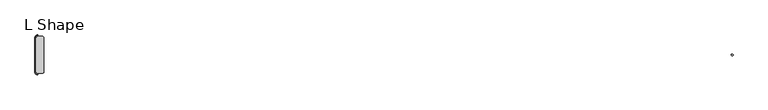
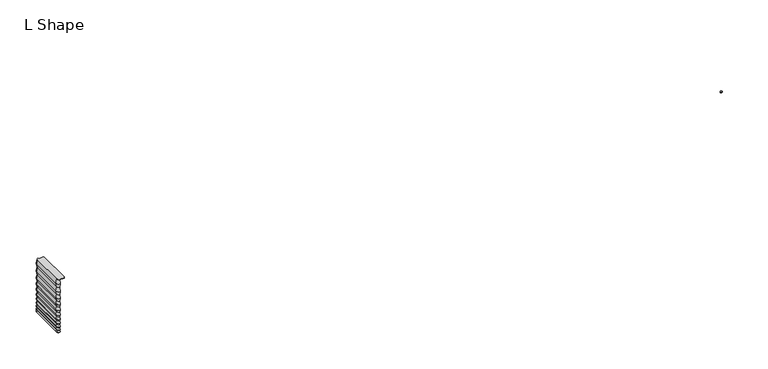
"""IFC4 building model written with IfcOpenShell, lengths in millimetres: light fixture geometry, Lighting-Ceiling-Betacalco-Bellows-L_Shape : L Shape."""

from ifc_helpers import new_model, si_unit, point, frame, frame_2d, origin, place, context, project, spatial, polyline, circle_curve, trimmed, segment, composite_curve, outline, extrude, source, transform, mapped, element, save
from ifc_brep_helpers import plane_surface, revolved_surface, advanced_brep


def l_shape_a64cd410(model_context):
    return source(origin(), model_context, "Body", "SolidModel", [
        advanced_brep(
        [(-609.6, -35.1474913, 2.032), (-609.6, -33.3694913, 0.0), (-609.6, 33.3694913, 0.0), (-609.6, 35.1474913, 2.032), (-609.6, 33.3694913, 4.064), (-609.6, 35.1474913, 6.604), (-609.6, 33.3694913, 9.144), (-609.6, 35.1474913, 12.192), (-609.6, 33.3694913, 15.24), (-609.6, 35.1474913, 18.796), (-609.6, 33.3694913, 22.352), (-609.6, 35.1474913, 26.162), (-609.6, 33.3694913, 29.972), (-609.6, 35.11885, 34.4703509), (-609.6, 33.3966915, 39.0460566), (-609.6, 35.1239968, 44.1288728), (-609.6, 33.3919128, 49.2119386), (-609.6, 35.1278878, 54.802389), (-609.6, 33.3882749, 60.3929656), (-609.6, 35.1308966, 66.491104), (-609.6, 33.3848944, 72.5911894), (-609.6, 35.1351705, 79.7067168), (-609.6, 33.3815995, 86.8195673), (-609.6, 35.1359826, 94.186321), (-609.6, 33.3694913, 101.6), (-609.6, 32.6229178, 101.6), (-609.6, 32.6229178, 100.2332722), (-609.6, -32.6229178, 100.2332722), (-609.6, -32.6229178, 101.6), (-609.6, -33.3694913, 101.6), (-609.6, -35.1359826, 94.186321), (-609.6, -33.3815995, 86.8195673), (-609.6, -35.1351705, 79.7067168), (-609.6, -33.3848944, 72.5911894), (-609.6, -35.1308966, 66.491104), (-609.6, -33.3882749, 60.3929656), (-609.6, -35.1278878, 54.802389), (-609.6, -33.3919128, 49.2119386), (-609.6, -35.1239968, 44.1288728), (-609.6, -33.3966915, 39.0460566), (-609.6, -35.11885, 34.4703509), (-609.6, -33.3694913, 29.972), (-609.6, -35.1474913, 26.162), (-609.6, -33.3694913, 22.352), (-609.6, -35.1474913, 18.796), (-609.6, -33.3694913, 15.24), (-609.6, -35.1474913, 12.192), (-609.6, -33.3694913, 9.144), (-609.6, -35.1474913, 6.604), (-609.6, -33.3694913, 4.064), (-614.791, -29.9564913, 2.032), (-613.013, -29.9564913, 0.0), (-613.013, 29.9564913, 0.0), (-613.013, -29.9564913, 101.6), (-600.7807007, -32.5154703, 101.6), (-599.6222216, -31.4000598, 101.6), (-599.6222216, 31.4000598, 101.6), (-600.7807007, 32.5154703, 101.6), (-613.013, 29.9564913, 101.6), (-614.7794913, -29.9564913, 94.186321), (-613.0251082, -29.9564913, 86.8195673), (-614.7786792, -29.9564913, 79.7067168), (-613.0284031, -29.9564913, 72.5911894), (-614.7744054, -29.9564913, 66.491104), (-613.0317837, -29.9564913, 60.3929656), (-614.7713965, -29.9564913, 54.802389), (-613.0354215, -29.9564913, 49.2119386), (-614.7675055, -29.9564913, 44.1288728), (-613.0402002, -29.9564913, 39.0460566), (-614.7623587, -29.9564913, 34.4703509), (-613.013, -29.9564913, 29.972), (-614.791, -29.9564913, 26.162), (-613.013, -29.9564913, 22.352), (-614.791, -29.9564913, 18.796), (-613.013, -29.9564913, 15.24), (-614.791, -29.9564913, 12.192), (-613.013, -29.9564913, 9.144), (-614.791, -29.9564913, 6.604), (-613.013, -29.9564913, 4.064), (-614.791, 29.9564913, 2.032), (-614.7794913, 29.9564913, 94.186321), (-613.0251082, 29.9564913, 86.8195673), (-614.7786792, 29.9564913, 79.7067168), (-613.0284031, 29.9564913, 72.5911894), (-614.7744054, 29.9564913, 66.491104), (-613.0317837, 29.9564913, 60.3929656), (-614.7713965, 29.9564913, 54.802389), (-613.0354215, 29.9564913, 49.2119386), (-614.7675055, 29.9564913, 44.1288728), (-613.0402002, 29.9564913, 39.0460566), (-614.7623587, 29.9564913, 34.4703509), (-613.013, 29.9564913, 29.972), (-614.791, 29.9564913, 26.162), (-613.013, 29.9564913, 22.352), (-614.791, 29.9564913, 18.796), (-613.013, 29.9564913, 15.24), (-614.791, 29.9564913, 12.192), (-613.013, 29.9564913, 9.144), (-614.791, 29.9564913, 6.604), (-613.013, 29.9564913, 4.064), (-599.6222216, 31.4000598, 100.2332722), (-599.6222216, -31.4000598, 100.2332722), (-600.7807007, -32.5154703, 100.2332722), (-600.7807007, 32.5154703, 100.2332722)],
        [
            (0, 1),
            (1, 2),
            (2, 3),
            (3, 4),
            (4, 5),
            (5, 6),
            (6, 7),
            (7, 8),
            (8, 9),
            (9, 10),
            (10, 11),
            (11, 12),
            (12, 13),
            (13, 14),
            (14, 15),
            (15, 16),
            (16, 17),
            (17, 18),
            (18, 19),
            (19, 20),
            (20, 21),
            (21, 22),
            (22, 23),
            (23, 24),
            (24, 25),
            (25, 26),
            (26, 27),
            (27, 28),
            (28, 29),
            (29, 30),
            (30, 31),
            (31, 32),
            (32, 33),
            (33, 34),
            (34, 35),
            (35, 36),
            (36, 37),
            (37, 38),
            (38, 39),
            (39, 40),
            (40, 41),
            (41, 42),
            (42, 43),
            (43, 44),
            (44, 45),
            (45, 46),
            (46, 47),
            (47, 48),
            (48, 49),
            (49, 0),
            (0, 50, circle_curve(frame((-609.6, -29.9564913, 2.032), z_axis=(0.0, 0.0, -1.0), x_axis=(0.0, -1.0, 0.0)), 5.191)),
            (50, 51),
            (51, 1, circle_curve(frame((-609.6, -29.9564913, 0.0), z_axis=(0.0, 0.0, 1.0), x_axis=(0.0, -1.0, 0.0)), 3.413)),
            (51, 52),
            (52, 2, circle_curve(frame((-609.6, 29.9564913, 0.0), z_axis=(0.0, 0.0, -1.0), x_axis=(-1.0, 0.0, 0.0)), 3.413)),
            (53, 29, circle_curve(frame((-609.6, -29.9564913, 101.6), z_axis=(0.0, 0.0, 1.0), x_axis=(0.0, -1.0, 0.0)), 3.413)),
            (28, 54),
            (54, 55),
            (55, 56),
            (56, 57),
            (57, 25),
            (24, 58, circle_curve(frame((-609.6, 29.9564913, 101.6), z_axis=(0.0, 0.0, 1.0), x_axis=(-1.0, 0.0, 0.0)), 3.413)),
            (58, 53),
            (53, 59),
            (59, 30, circle_curve(frame((-609.6, -29.9564913, 94.186321), z_axis=(0.0, 0.0, 1.0), x_axis=(0.0, -1.0, 0.0)), 5.1794913)),
            (59, 60),
            (60, 31, circle_curve(frame((-609.6, -29.9564913, 86.8195673), z_axis=(0.0, 0.0, 1.0), x_axis=(0.0, -1.0, 0.0)), 3.4251082)),
            (60, 61),
            (61, 32, circle_curve(frame((-609.6, -29.9564913, 79.7067168), z_axis=(0.0, 0.0, 1.0), x_axis=(0.0, -1.0, 0.0)), 5.1786792)),
            (61, 62),
            (62, 33, circle_curve(frame((-609.6, -29.9564913, 72.5911894), z_axis=(0.0, 0.0, 1.0), x_axis=(0.0, -1.0, 0.0)), 3.4284031)),
            (62, 63),
            (63, 34, circle_curve(frame((-609.6, -29.9564913, 66.491104), z_axis=(0.0, 0.0, 1.0), x_axis=(0.0, -1.0, 0.0)), 5.1744054)),
            (63, 64),
            (64, 35, circle_curve(frame((-609.6, -29.9564913, 60.3929656), z_axis=(0.0, 0.0, 1.0), x_axis=(0.0, -1.0, 0.0)), 3.4317837)),
            (64, 65),
            (65, 36, circle_curve(frame((-609.6, -29.9564913, 54.802389), z_axis=(0.0, 0.0, 1.0), x_axis=(0.0, -1.0, 0.0)), 5.1713965)),
            (65, 66),
            (66, 37, circle_curve(frame((-609.6, -29.9564913, 49.2119386), z_axis=(0.0, 0.0, 1.0), x_axis=(0.0, -1.0, 0.0)), 3.4354215)),
            (66, 67),
            (67, 38, circle_curve(frame((-609.6, -29.9564913, 44.1288728), z_axis=(0.0, 0.0, 1.0), x_axis=(0.0, -1.0, 0.0)), 5.1675055)),
            (67, 68),
            (68, 39, circle_curve(frame((-609.6, -29.9564913, 39.0460566), z_axis=(0.0, 0.0, 1.0), x_axis=(0.0, -1.0, 0.0)), 3.4402002)),
            (68, 69),
            (69, 40, circle_curve(frame((-609.6, -29.9564913, 34.4703509), z_axis=(0.0, 0.0, 1.0), x_axis=(0.0, -1.0, 0.0)), 5.1623587)),
            (69, 70),
            (70, 41, circle_curve(frame((-609.6, -29.9564913, 29.972), z_axis=(0.0, 0.0, 1.0), x_axis=(0.0, -1.0, 0.0)), 3.413)),
            (70, 71),
            (71, 42, circle_curve(frame((-609.6, -29.9564913, 26.162), z_axis=(0.0, 0.0, 1.0), x_axis=(0.0, -1.0, 0.0)), 5.191)),
            (71, 72),
            (72, 43, circle_curve(frame((-609.6, -29.9564913, 22.352), z_axis=(0.0, 0.0, 1.0), x_axis=(0.0, -1.0, 0.0)), 3.413)),
            (72, 73),
            (73, 44, circle_curve(frame((-609.6, -29.9564913, 18.796), z_axis=(0.0, 0.0, 1.0), x_axis=(0.0, -1.0, 0.0)), 5.191)),
            (73, 74),
            (74, 45, circle_curve(frame((-609.6, -29.9564913, 15.24), z_axis=(0.0, 0.0, 1.0), x_axis=(0.0, -1.0, 0.0)), 3.413)),
            (74, 75),
            (75, 46, circle_curve(frame((-609.6, -29.9564913, 12.192), z_axis=(0.0, 0.0, 1.0), x_axis=(0.0, -1.0, 0.0)), 5.191)),
            (75, 76),
            (76, 47, circle_curve(frame((-609.6, -29.9564913, 9.144), z_axis=(0.0, 0.0, 1.0), x_axis=(0.0, -1.0, 0.0)), 3.413)),
            (76, 77),
            (77, 48, circle_curve(frame((-609.6, -29.9564913, 6.604), z_axis=(0.0, 0.0, 1.0), x_axis=(0.0, -1.0, 0.0)), 5.191)),
            (77, 78),
            (78, 49, circle_curve(frame((-609.6, -29.9564913, 4.064), z_axis=(0.0, 0.0, 1.0), x_axis=(0.0, -1.0, 0.0)), 3.413)),
            (78, 50),
            (50, 79),
            (79, 52),
            (58, 80),
            (80, 59),
            (80, 81),
            (81, 60),
            (81, 82),
            (82, 61),
            (82, 83),
            (83, 62),
            (83, 84),
            (84, 63),
            (84, 85),
            (85, 64),
            (85, 86),
            (86, 65),
            (86, 87),
            (87, 66),
            (87, 88),
            (88, 67),
            (88, 89),
            (89, 68),
            (89, 90),
            (90, 69),
            (90, 91),
            (91, 70),
            (91, 92),
            (92, 71),
            (92, 93),
            (93, 72),
            (93, 94),
            (94, 73),
            (94, 95),
            (95, 74),
            (95, 96),
            (96, 75),
            (96, 97),
            (97, 76),
            (97, 98),
            (98, 77),
            (98, 99),
            (99, 78),
            (99, 79),
            (100, 101),
            (101, 102),
            (102, 27),
            (26, 103),
            (103, 100),
            (56, 100),
            (103, 57),
            (102, 54),
            (101, 55),
            (79, 3, circle_curve(frame((-609.6, 29.9564913, 2.032), z_axis=(0.0, 0.0, -1.0), x_axis=(-1.0, 0.0, 0.0)), 5.191)),
            (23, 80, circle_curve(frame((-609.6, 29.9564913, 94.186321), z_axis=(0.0, 0.0, 1.0), x_axis=(-1.0, 0.0, 0.0)), 5.1794913)),
            (22, 81, circle_curve(frame((-609.6, 29.9564913, 86.8195673), z_axis=(0.0, 0.0, 1.0), x_axis=(-1.0, 0.0, 0.0)), 3.4251082)),
            (21, 82, circle_curve(frame((-609.6, 29.9564913, 79.7067168), z_axis=(0.0, 0.0, 1.0), x_axis=(-1.0, 0.0, 0.0)), 5.1786792)),
            (20, 83, circle_curve(frame((-609.6, 29.9564913, 72.5911894), z_axis=(0.0, 0.0, 1.0), x_axis=(-1.0, 0.0, 0.0)), 3.4284031)),
            (19, 84, circle_curve(frame((-609.6, 29.9564913, 66.491104), z_axis=(0.0, 0.0, 1.0), x_axis=(-1.0, 0.0, 0.0)), 5.1744054)),
            (18, 85, circle_curve(frame((-609.6, 29.9564913, 60.3929656), z_axis=(0.0, 0.0, 1.0), x_axis=(-1.0, 0.0, 0.0)), 3.4317837)),
            (17, 86, circle_curve(frame((-609.6, 29.9564913, 54.802389), z_axis=(0.0, 0.0, 1.0), x_axis=(-1.0, 0.0, 0.0)), 5.1713965)),
            (16, 87, circle_curve(frame((-609.6, 29.9564913, 49.2119386), z_axis=(0.0, 0.0, 1.0), x_axis=(-1.0, 0.0, 0.0)), 3.4354215)),
            (15, 88, circle_curve(frame((-609.6, 29.9564913, 44.1288728), z_axis=(0.0, 0.0, 1.0), x_axis=(-1.0, 0.0, 0.0)), 5.1675055)),
            (14, 89, circle_curve(frame((-609.6, 29.9564913, 39.0460566), z_axis=(0.0, 0.0, 1.0), x_axis=(-1.0, 0.0, 0.0)), 3.4402002)),
            (13, 90, circle_curve(frame((-609.6, 29.9564913, 34.4703509), z_axis=(0.0, 0.0, 1.0), x_axis=(-1.0, 0.0, 0.0)), 5.1623587)),
            (12, 91, circle_curve(frame((-609.6, 29.9564913, 29.972), z_axis=(0.0, 0.0, 1.0), x_axis=(-1.0, 0.0, 0.0)), 3.413)),
            (11, 92, circle_curve(frame((-609.6, 29.9564913, 26.162), z_axis=(0.0, 0.0, 1.0), x_axis=(-1.0, 0.0, 0.0)), 5.191)),
            (10, 93, circle_curve(frame((-609.6, 29.9564913, 22.352), z_axis=(0.0, 0.0, 1.0), x_axis=(-1.0, 0.0, 0.0)), 3.413)),
            (9, 94, circle_curve(frame((-609.6, 29.9564913, 18.796), z_axis=(0.0, 0.0, 1.0), x_axis=(-1.0, 0.0, 0.0)), 5.191)),
            (8, 95, circle_curve(frame((-609.6, 29.9564913, 15.24), z_axis=(0.0, 0.0, 1.0), x_axis=(-1.0, 0.0, 0.0)), 3.413)),
            (7, 96, circle_curve(frame((-609.6, 29.9564913, 12.192), z_axis=(0.0, 0.0, 1.0), x_axis=(-1.0, 0.0, 0.0)), 5.191)),
            (6, 97, circle_curve(frame((-609.6, 29.9564913, 9.144), z_axis=(0.0, 0.0, 1.0), x_axis=(-1.0, 0.0, 0.0)), 3.413)),
            (5, 98, circle_curve(frame((-609.6, 29.9564913, 6.604), z_axis=(0.0, 0.0, 1.0), x_axis=(-1.0, 0.0, 0.0)), 5.191)),
            (4, 99, circle_curve(frame((-609.6, 29.9564913, 4.064), z_axis=(0.0, 0.0, 1.0), x_axis=(-1.0, 0.0, 0.0)), 3.413)),
        ],
        [
            plane_surface(frame((-609.6, -35.3935941, 0.0), z_axis=(1.0, 0.0, 0.0), x_axis=(0.0, 0.0, 1.0))),
            revolved_surface(polyline([(-609.6, -35.1474913, 2.032), (-609.6, -33.3694913, 0.0)]), (-609.6, -29.9564913, 0.0), (0.0, 0.0, -1.0)),
            plane_surface(frame((-609.6, -29.9564913, 0.0), z_axis=(0.0, 0.0, -1.0), x_axis=(0.0, -1.0, 0.0))),
            plane_surface(frame((-609.6, -29.9564913, 101.6), z_axis=(0.0, 0.0, 1.0), x_axis=(0.0, -1.0, 0.0))),
            revolved_surface(polyline([(-609.6, -33.3694913, 101.6), (-609.6, -35.1359826, 94.186321)]), (-609.6, -29.9564913, 0.0), (0.0, 0.0, -1.0)),
            revolved_surface(polyline([(-609.6, -35.1359826, 94.186321), (-609.6, -33.3815995, 86.8195673)]), (-609.6, -29.9564913, 0.0), (0.0, 0.0, -1.0)),
            revolved_surface(polyline([(-609.6, -33.3815995, 86.8195673), (-609.6, -35.1351705, 79.7067168)]), (-609.6, -29.9564913, 0.0), (0.0, 0.0, -1.0)),
            revolved_surface(polyline([(-609.6, -35.1351705, 79.7067168), (-609.6, -33.3848944, 72.5911894)]), (-609.6, -29.9564913, 0.0), (0.0, 0.0, -1.0)),
            revolved_surface(polyline([(-609.6, -33.3848944, 72.5911894), (-609.6, -35.1308966, 66.491104)]), (-609.6, -29.9564913, 0.0), (0.0, 0.0, -1.0)),
            revolved_surface(polyline([(-609.6, -35.1308966, 66.491104), (-609.6, -33.3882749, 60.3929656)]), (-609.6, -29.9564913, 0.0), (0.0, 0.0, -1.0)),
            revolved_surface(polyline([(-609.6, -33.3882749, 60.3929656), (-609.6, -35.1278878, 54.802389)]), (-609.6, -29.9564913, 0.0), (0.0, 0.0, -1.0)),
            revolved_surface(polyline([(-609.6, -35.1278878, 54.802389), (-609.6, -33.3919128, 49.2119386)]), (-609.6, -29.9564913, 0.0), (0.0, 0.0, -1.0)),
            revolved_surface(polyline([(-609.6, -33.3919128, 49.2119386), (-609.6, -35.1239968, 44.1288728)]), (-609.6, -29.9564913, 0.0), (0.0, 0.0, -1.0)),
            revolved_surface(polyline([(-609.6, -35.1239968, 44.1288728), (-609.6, -33.3966915, 39.0460566)]), (-609.6, -29.9564913, 0.0), (0.0, 0.0, -1.0)),
            revolved_surface(polyline([(-609.6, -33.3966915, 39.0460566), (-609.6, -35.11885, 34.4703509)]), (-609.6, -29.9564913, 0.0), (0.0, 0.0, -1.0)),
            revolved_surface(polyline([(-609.6, -35.11885, 34.4703509), (-609.6, -33.3694913, 29.972)]), (-609.6, -29.9564913, 0.0), (0.0, 0.0, -1.0)),
            revolved_surface(polyline([(-609.6, -33.3694913, 29.972), (-609.6, -35.1474913, 26.162)]), (-609.6, -29.9564913, 0.0), (0.0, 0.0, -1.0)),
            revolved_surface(polyline([(-609.6, -35.1474913, 26.162), (-609.6, -33.3694913, 22.352)]), (-609.6, -29.9564913, 0.0), (0.0, 0.0, -1.0)),
            revolved_surface(polyline([(-609.6, -33.3694913, 22.352), (-609.6, -35.1474913, 18.796)]), (-609.6, -29.9564913, 0.0), (0.0, 0.0, -1.0)),
            revolved_surface(polyline([(-609.6, -35.1474913, 18.796), (-609.6, -33.3694913, 15.24)]), (-609.6, -29.9564913, 0.0), (0.0, 0.0, -1.0)),
            revolved_surface(polyline([(-609.6, -33.3694913, 15.24), (-609.6, -35.1474913, 12.192)]), (-609.6, -29.9564913, 0.0), (0.0, 0.0, -1.0)),
            revolved_surface(polyline([(-609.6, -35.1474913, 12.192), (-609.6, -33.3694913, 9.144)]), (-609.6, -29.9564913, 0.0), (0.0, 0.0, -1.0)),
            revolved_surface(polyline([(-609.6, -33.3694913, 9.144), (-609.6, -35.1474913, 6.604)]), (-609.6, -29.9564913, 0.0), (0.0, 0.0, -1.0)),
            revolved_surface(polyline([(-609.6, -35.1474913, 6.604), (-609.6, -33.3694913, 4.064)]), (-609.6, -29.9564913, 0.0), (0.0, 0.0, -1.0)),
            revolved_surface(polyline([(-609.6, -33.3694913, 4.064), (-609.6, -35.1474913, 2.032)]), (-609.6, -29.9564913, 0.0), (0.0, 0.0, -1.0)),
            plane_surface(frame((-614.791, -29.9564913, 2.032), z_axis=(-0.7525766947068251, 0.0, -0.6585046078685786), x_axis=(0.0, 1.0, 0.0))),
            plane_surface(frame((-613.013, -29.9564913, 101.6), z_axis=(-0.9727668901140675, 0.0, 0.23178562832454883), x_axis=(0.0, 1.0, 0.0))),
            plane_surface(frame((-614.7794913, -29.9564913, 94.186321), z_axis=(-0.9727944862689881, 0.0, -0.23166978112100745), x_axis=(0.0, 1.0, 0.0))),
            plane_surface(frame((-613.0251082, -29.9564913, 86.8195673), z_axis=(-0.9709287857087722, 0.0, 0.23936852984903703), x_axis=(0.0, 1.0, 0.0))),
            plane_surface(frame((-614.7786792, -29.9564913, 79.7067168), z_axis=(-0.9710540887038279, 0.0, -0.23885970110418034), x_axis=(0.0, 1.0, 0.0))),
            plane_surface(frame((-613.0284031, -29.9564913, 72.5911894), z_axis=(-0.9613939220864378, 0.0, 0.27517581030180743), x_axis=(0.0, 1.0, 0.0))),
            plane_surface(frame((-614.7744054, -29.9564913, 66.491104), z_axis=(-0.9615116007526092, 0.0, -0.2747643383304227), x_axis=(0.0, 1.0, 0.0))),
            plane_surface(frame((-613.0317837, -29.9564913, 60.3929656), z_axis=(-0.9548411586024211, 0.0, 0.29711674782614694), x_axis=(0.0, 1.0, 0.0))),
            plane_surface(frame((-614.7713965, -29.9564913, 54.802389), z_axis=(-0.9550153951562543, 0.0, -0.29655622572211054), x_axis=(0.0, 1.0, 0.0))),
            plane_surface(frame((-613.0354215, -29.9564913, 49.2119386), z_axis=(-0.9465545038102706, 0.0, 0.3225439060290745), x_axis=(0.0, 1.0, 0.0))),
            plane_surface(frame((-614.7675055, -29.9564913, 44.1288728), z_axis=(-0.9468211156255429, 0.0, -0.3217604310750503), x_axis=(0.0, 1.0, 0.0))),
            plane_surface(frame((-613.0402002, -29.9564913, 39.0460566), z_axis=(-0.9359069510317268, 0.0, 0.3522473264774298), x_axis=(0.0, 1.0, 0.0))),
            plane_surface(frame((-614.7623587, -29.9564913, 34.4703509), z_axis=(-0.9320046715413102, 0.0, -0.36244626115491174), x_axis=(0.0, 1.0, 0.0))),
            plane_surface(frame((-613.013, -29.9564913, 29.972), z_axis=(-0.9061831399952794, 0.0, 0.42288546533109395), x_axis=(0.0, 1.0, 0.0))),
            plane_surface(frame((-614.791, -29.9564913, 26.162), z_axis=(-0.9061831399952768, 0.0, -0.42288546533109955), x_axis=(0.0, 1.0, 0.0))),
            plane_surface(frame((-613.013, -29.9564913, 22.352), z_axis=(-0.8944271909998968, 0.0, 0.4472135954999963), x_axis=(0.0, 1.0, 0.0))),
            plane_surface(frame((-614.791, -29.9564913, 18.796), z_axis=(-0.8944271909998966, 0.0, -0.44721359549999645), x_axis=(0.0, 1.0, 0.0))),
            plane_surface(frame((-613.013, -29.9564913, 15.24), z_axis=(-0.8637789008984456, 0.0, 0.5038710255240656), x_axis=(0.0, 1.0, 0.0))),
            plane_surface(frame((-614.791, -29.9564913, 12.192), z_axis=(-0.8637789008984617, 0.0, -0.503871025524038), x_axis=(0.0, 1.0, 0.0))),
            plane_surface(frame((-613.013, -29.9564913, 9.144), z_axis=(-0.8192319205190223, 0.0, 0.5734623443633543), x_axis=(0.0, 1.0, 0.0))),
            plane_surface(frame((-614.791, -29.9564913, 6.604), z_axis=(-0.8192319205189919, 0.0, -0.5734623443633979), x_axis=(0.0, 1.0, 0.0))),
            plane_surface(frame((-613.013, -29.9564913, 4.064), z_axis=(-0.7525766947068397, 0.0, 0.6585046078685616), x_axis=(0.0, 1.0, 0.0))),
            plane_surface(frame((-599.6222216, 31.4000598, 100.2332722), z_axis=(0.0, 0.0, -1.0), x_axis=(0.7203705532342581, -0.6935894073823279, 0.0))),
            plane_surface(frame((-599.6222216, 31.4000598, 101.6), z_axis=(0.6935894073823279, 0.7203705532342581, 0.0), x_axis=(0.0, 0.0, -1.0))),
            plane_surface(frame((-600.7807007, 32.5154703, 101.6), z_axis=(0.012182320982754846, 0.9999257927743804, 0.0), x_axis=(0.0, 0.0, -1.0))),
            plane_surface(frame((-609.6, -32.6229178, 101.6), z_axis=(0.012182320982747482, -0.9999257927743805, 0.0), x_axis=(0.0, 0.0, -1.0))),
            plane_surface(frame((-600.7807007, -32.5154703, 101.6), z_axis=(0.6935894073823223, -0.7203705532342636, 0.0), x_axis=(0.0, 0.0, -1.0))),
            plane_surface(frame((-599.6222216, -31.4000598, 101.6), z_axis=(1.0, 0.0, 0.0), x_axis=(0.0, 0.0, -1.0))),
            revolved_surface(polyline([(-614.791, 29.9564913, 2.032), (-613.013, 29.9564913, 0.0)]), (-609.6, 29.9564913, 0.0), (0.0, 0.0, -1.0)),
            revolved_surface(polyline([(-613.013, 29.9564913, 101.6), (-614.7794913, 29.9564913, 94.186321)]), (-609.6, 29.9564913, 0.0), (0.0, 0.0, -1.0)),
            revolved_surface(polyline([(-614.7794913, 29.9564913, 94.186321), (-613.0251082, 29.9564913, 86.8195673)]), (-609.6, 29.9564913, 0.0), (0.0, 0.0, -1.0)),
            revolved_surface(polyline([(-613.0251082, 29.9564913, 86.8195673), (-614.7786792, 29.9564913, 79.7067168)]), (-609.6, 29.9564913, 0.0), (0.0, 0.0, -1.0)),
            revolved_surface(polyline([(-614.7786792, 29.9564913, 79.7067168), (-613.0284031, 29.9564913, 72.5911894)]), (-609.6, 29.9564913, 0.0), (0.0, 0.0, -1.0)),
            revolved_surface(polyline([(-613.0284031, 29.9564913, 72.5911894), (-614.7744054, 29.9564913, 66.491104)]), (-609.6, 29.9564913, 0.0), (0.0, 0.0, -1.0)),
            revolved_surface(polyline([(-614.7744054, 29.9564913, 66.491104), (-613.0317837, 29.9564913, 60.3929656)]), (-609.6, 29.9564913, 0.0), (0.0, 0.0, -1.0)),
            revolved_surface(polyline([(-613.0317837, 29.9564913, 60.3929656), (-614.7713965, 29.9564913, 54.802389)]), (-609.6, 29.9564913, 0.0), (0.0, 0.0, -1.0)),
            revolved_surface(polyline([(-614.7713965, 29.9564913, 54.802389), (-613.0354215, 29.9564913, 49.2119386)]), (-609.6, 29.9564913, 0.0), (0.0, 0.0, -1.0)),
            revolved_surface(polyline([(-613.0354215, 29.9564913, 49.2119386), (-614.7675055, 29.9564913, 44.1288728)]), (-609.6, 29.9564913, 0.0), (0.0, 0.0, -1.0)),
            revolved_surface(polyline([(-614.7675055, 29.9564913, 44.1288728), (-613.0402002, 29.9564913, 39.0460566)]), (-609.6, 29.9564913, 0.0), (0.0, 0.0, -1.0)),
            revolved_surface(polyline([(-613.0402002, 29.9564913, 39.0460566), (-614.7623587, 29.9564913, 34.4703509)]), (-609.6, 29.9564913, 0.0), (0.0, 0.0, -1.0)),
            revolved_surface(polyline([(-614.7623587, 29.9564913, 34.4703509), (-613.013, 29.9564913, 29.972)]), (-609.6, 29.9564913, 0.0), (0.0, 0.0, -1.0)),
            revolved_surface(polyline([(-613.013, 29.9564913, 29.972), (-614.791, 29.9564913, 26.162)]), (-609.6, 29.9564913, 0.0), (0.0, 0.0, -1.0)),
            revolved_surface(polyline([(-614.791, 29.9564913, 26.162), (-613.013, 29.9564913, 22.352)]), (-609.6, 29.9564913, 0.0), (0.0, 0.0, -1.0)),
            revolved_surface(polyline([(-613.013, 29.9564913, 22.352), (-614.791, 29.9564913, 18.796)]), (-609.6, 29.9564913, 0.0), (0.0, 0.0, -1.0)),
            revolved_surface(polyline([(-614.791, 29.9564913, 18.796), (-613.013, 29.9564913, 15.24)]), (-609.6, 29.9564913, 0.0), (0.0, 0.0, -1.0)),
            revolved_surface(polyline([(-613.013, 29.9564913, 15.24), (-614.791, 29.9564913, 12.192)]), (-609.6, 29.9564913, 0.0), (0.0, 0.0, -1.0)),
            revolved_surface(polyline([(-614.791, 29.9564913, 12.192), (-613.013, 29.9564913, 9.144)]), (-609.6, 29.9564913, 0.0), (0.0, 0.0, -1.0)),
            revolved_surface(polyline([(-613.013, 29.9564913, 9.144), (-614.791, 29.9564913, 6.604)]), (-609.6, 29.9564913, 0.0), (0.0, 0.0, -1.0)),
            revolved_surface(polyline([(-614.791, 29.9564913, 6.604), (-613.013, 29.9564913, 4.064)]), (-609.6, 29.9564913, 0.0), (0.0, 0.0, -1.0)),
            revolved_surface(polyline([(-613.013, 29.9564913, 4.064), (-614.791, 29.9564913, 2.032)]), (-609.6, 29.9564913, 0.0), (0.0, 0.0, -1.0)),
        ],
        [
            (0, [[1, 2, 3, 4, 5, 6, 7, 8, 9, 10, 11, 12, 13, 14, 15, 16, 17, 18, 19, 20, 21, 22, 23, 24, 25, 26, 27, 28, 29, 30, 31, 32, 33, 34, 35, 36, 37, 38, 39, 40, 41, 42, 43, 44, 45, 46, 47, 48, 49, 50]]),
            (1, [[-1, 51, 52, 53]]),
            (2, [[-2, -53, 54, 55]]),
            (3, [[56, -29, 57, 58, 59, 60, 61, -25, 62, 63]]),
            (4, [[-30, -56, 64, 65]]),
            (5, [[-31, -65, 66, 67]]),
            (6, [[-32, -67, 68, 69]]),
            (7, [[-33, -69, 70, 71]]),
            (8, [[-34, -71, 72, 73]]),
            (9, [[-35, -73, 74, 75]]),
            (10, [[-36, -75, 76, 77]]),
            (11, [[-37, -77, 78, 79]]),
            (12, [[-38, -79, 80, 81]]),
            (13, [[-39, -81, 82, 83]]),
            (14, [[-40, -83, 84, 85]]),
            (15, [[-41, -85, 86, 87]]),
            (16, [[-42, -87, 88, 89]]),
            (17, [[-43, -89, 90, 91]]),
            (18, [[-44, -91, 92, 93]]),
            (19, [[-45, -93, 94, 95]]),
            (20, [[-46, -95, 96, 97]]),
            (21, [[-47, -97, 98, 99]]),
            (22, [[-48, -99, 100, 101]]),
            (23, [[-49, -101, 102, 103]]),
            (24, [[-50, -103, 104, -51]]),
            (25, [[-52, 105, 106, -54]]),
            (26, [[-63, 107, 108, -64]]),
            (27, [[-66, -108, 109, 110]]),
            (28, [[-68, -110, 111, 112]]),
            (29, [[-70, -112, 113, 114]]),
            (30, [[-72, -114, 115, 116]]),
            (31, [[-74, -116, 117, 118]]),
            (32, [[-76, -118, 119, 120]]),
            (33, [[-78, -120, 121, 122]]),
            (34, [[-80, -122, 123, 124]]),
            (35, [[-82, -124, 125, 126]]),
            (36, [[-84, -126, 127, 128]]),
            (37, [[-86, -128, 129, 130]]),
            (38, [[-88, -130, 131, 132]]),
            (39, [[-90, -132, 133, 134]]),
            (40, [[-92, -134, 135, 136]]),
            (41, [[-94, -136, 137, 138]]),
            (42, [[-96, -138, 139, 140]]),
            (43, [[-98, -140, 141, 142]]),
            (44, [[-100, -142, 143, 144]]),
            (45, [[-102, -144, 145, 146]]),
            (46, [[-104, -146, 147, -105]]),
            (47, [[148, 149, 150, -27, 151, 152]]),
            (48, [[-60, 153, -152, 154]]),
            (49, [[-61, -154, -151, -26]]),
            (50, [[-57, -28, -150, 155]]),
            (51, [[-58, -155, -149, 156]]),
            (52, [[-59, -156, -148, -153]]),
            (53, [[-55, -106, 157, -3]]),
            (54, [[-62, -24, 158, -107]]),
            (55, [[-109, -158, -23, 159]]),
            (56, [[-111, -159, -22, 160]]),
            (57, [[-113, -160, -21, 161]]),
            (58, [[-115, -161, -20, 162]]),
            (59, [[-117, -162, -19, 163]]),
            (60, [[-119, -163, -18, 164]]),
            (61, [[-121, -164, -17, 165]]),
            (62, [[-123, -165, -16, 166]]),
            (63, [[-125, -166, -15, 167]]),
            (64, [[-127, -167, -14, 168]]),
            (65, [[-129, -168, -13, 169]]),
            (66, [[-131, -169, -12, 170]]),
            (67, [[-133, -170, -11, 171]]),
            (68, [[-135, -171, -10, 172]]),
            (69, [[-137, -172, -9, 173]]),
            (70, [[-139, -173, -8, 174]]),
            (71, [[-141, -174, -7, 175]]),
            (72, [[-143, -175, -6, 176]]),
            (73, [[-145, -176, -5, 177]]),
            (74, [[-147, -177, -4, -157]]),
        ],
    ),
        extrude(outline(composite_curve([segment(trimmed(circle_curve(frame_2d((609.6, 0.0)), 1.5875), [point((608.0125, 0.0))], [point((611.1875, 0.0))], False, "CARTESIAN"), True, "CONTINUOUS"), segment(trimmed(circle_curve(frame_2d((609.6, 0.0)), 1.5875), [point((611.1875, 0.0))], [point((608.0125, 0.0))], False, "CARTESIAN"), True, "CONTINUOUS")], self_intersect=False)), frame((0.0, 0.0, 13.5891701), z_axis=(0.0, 0.0, 1.0), x_axis=(1.0, 0.0, 0.0)), (0.0, 0.0, 1.0), 1.2441624),
    ])


if __name__ == "__main__":
    model = new_model("IFC4")
    model_context = context("Model", 3, world=origin())
    ifc_project = project(units=[si_unit("LENGTHUNIT", "METRE", prefix="MILLI")], contexts=[model_context])
    site = spatial("IfcSite", under=ifc_project)
    building = spatial("IfcBuilding", under=site)
    placement = place(None, origin())
    l_shape_shape = l_shape_a64cd410(model_context)
    element("IfcLightFixture", 1, ObjectType="Lighting-Ceiling-Betacalco-Bellows-L_Shape : L Shape", at=placement, inside=building, context=model_context, shape_type="MappedRepresentation", body=[
        mapped(l_shape_shape, transform((0.0, 0.0, 0.0), x_axis=(1.0, 0.0, 0.0), y_axis=(0.0, 1.0, 0.0), z_axis=(0.0, 0.0, 1.0))),
    ])
    save(model, "model.ifc")
